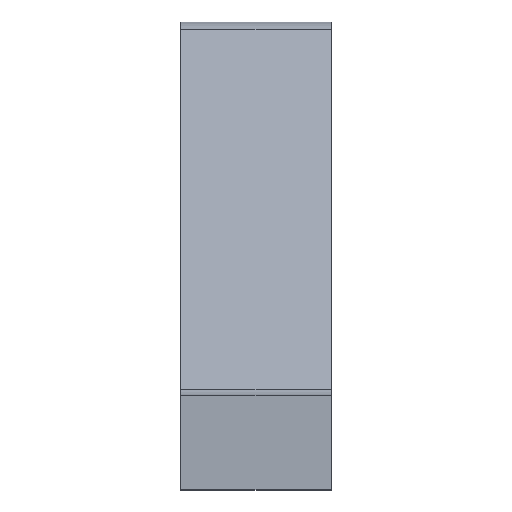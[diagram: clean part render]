
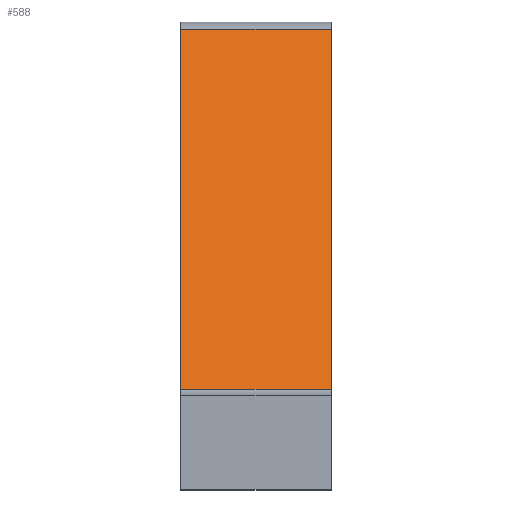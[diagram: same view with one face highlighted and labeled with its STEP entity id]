
A CAD part, top view. The second image highlights one B-rep face of the part: STEP entity #588.
In plain terms, the highlighted planar face has unit normal (0, 0.81, 0.587).
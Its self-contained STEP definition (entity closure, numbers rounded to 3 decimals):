
#14 = DIRECTION ( 'NONE',  ( -1., 0., 0. ) ) ;
#40 = DIRECTION ( 'NONE',  ( 0., -0.586, 0.81 ) ) ;
#127 = LINE ( 'NONE', #311, #524 ) ;
#162 = CARTESIAN_POINT ( 'NONE',  ( 0., 5., -10.38 ) ) ;
#168 = LINE ( 'NONE', #162, #570 ) ;
#177 = DIRECTION ( 'NONE',  ( 0., -0.586, 0.81 ) ) ;
#214 = ORIENTED_EDGE ( 'NONE', *, *, #618, .T. ) ;
#222 = ORIENTED_EDGE ( 'NONE', *, *, #610, .T. ) ;
#264 = DIRECTION ( 'NONE',  ( 0., -0.81, -0.586 ) ) ;
#270 = CARTESIAN_POINT ( 'NONE',  ( 8., 5., -10.38 ) ) ;
#280 = CARTESIAN_POINT ( 'NONE',  ( 0., 5.38, -10.905 ) ) ;
#304 = LINE ( 'NONE', #351, #527 ) ;
#311 = CARTESIAN_POINT ( 'NONE',  ( 8., 24.62, -37.475 ) ) ;
#331 = EDGE_LOOP ( 'NONE', ( #214, #222, #460, #447 ) ) ;
#343 = VERTEX_POINT ( 'NONE', #280 ) ;
#351 = CARTESIAN_POINT ( 'NONE',  ( 8., 5.38, -10.905 ) ) ;
#356 = LINE ( 'NONE', #357, #569 ) ;
#357 = CARTESIAN_POINT ( 'NONE',  ( 8., 5., -10.38 ) ) ;
#358 = DIRECTION ( 'NONE',  ( 1., 0., 0. ) ) ;
#372 = VERTEX_POINT ( 'NONE', #422 ) ;
#373 = VERTEX_POINT ( 'NONE', #424 ) ;
#374 = VERTEX_POINT ( 'NONE', #458 ) ;
#377 = DIRECTION ( 'NONE',  ( 0., 0.586, -0.81 ) ) ;
#422 = CARTESIAN_POINT ( 'NONE',  ( 8., 24.62, -37.475 ) ) ;
#424 = CARTESIAN_POINT ( 'NONE',  ( 8., 5.38, -10.905 ) ) ;
#447 = ORIENTED_EDGE ( 'NONE', *, *, #605, .T. ) ;
#458 = CARTESIAN_POINT ( 'NONE',  ( 0., 24.62, -37.475 ) ) ;
#460 = ORIENTED_EDGE ( 'NONE', *, *, #611, .F. ) ;
#476 = PLANE ( 'NONE',  #534 ) ;
#477 = FACE_OUTER_BOUND ( 'NONE', #331, .T. ) ;
#524 = VECTOR ( 'NONE', #14, 1000. ) ;
#527 = VECTOR ( 'NONE', #358, 1000. ) ;
#534 = AXIS2_PLACEMENT_3D ( 'NONE', #270, #264, #377 ) ;
#569 = VECTOR ( 'NONE', #40, 1000. ) ;
#570 = VECTOR ( 'NONE', #177, 1000. ) ;
#588 = ADVANCED_FACE ( 'NONE', ( #477 ), #476, .F. ) ;
#605 = EDGE_CURVE ( 'NONE', #372, #374, #127, .T. ) ;
#610 = EDGE_CURVE ( 'NONE', #343, #373, #304, .T. ) ;
#611 = EDGE_CURVE ( 'NONE', #372, #373, #356, .T. ) ;
#618 = EDGE_CURVE ( 'NONE', #374, #343, #168, .T. ) ;
